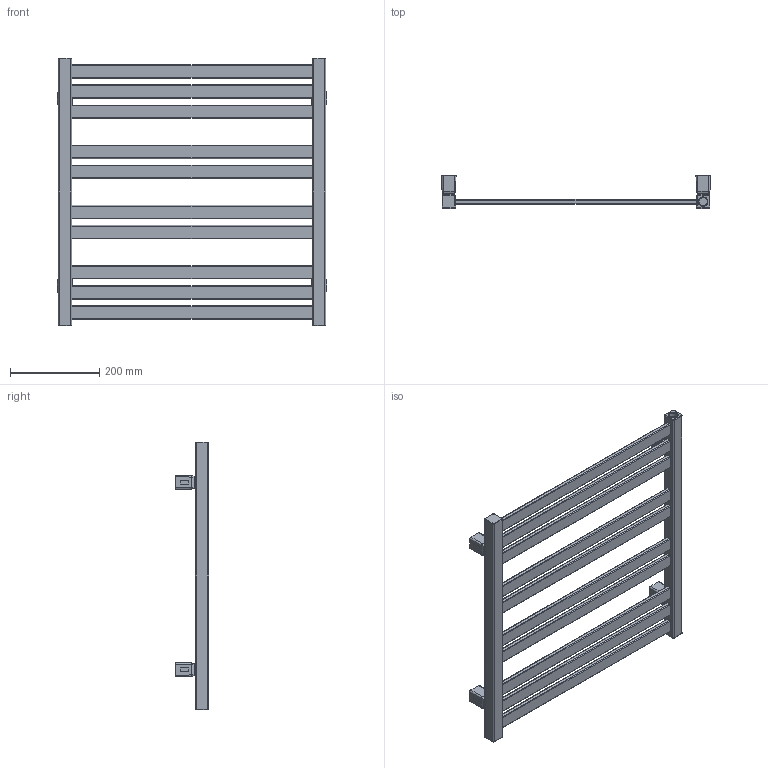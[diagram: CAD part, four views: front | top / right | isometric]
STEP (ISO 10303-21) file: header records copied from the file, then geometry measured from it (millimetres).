
FILE_DESCRIPTION((''),'2;1');
FILE_NAME('Z:\R\G\P\RGPH09 - Grzejnik Marlin\Work\Inventor\Grzejnik Marlin v3.0\Marketing\AutoCad 3D\MR-600-600-SX_MKT.stp','2012-07-25T08:09:40',('PioRo'),(''),'Autodesk Inventor 2012','Autodesk Inventor 2012','');
FILE_SCHEMA(('AUTOMOTIVE_DESIGN { 1 0 10303 214 1 1 1 1 }'));
Length unit declared in the file: millimetre
Products named in the file (3): MR-600-600-SX_MKT; MKT42-00-A v0.2
Assembly tree (5 placements, depth 2):
  MR-600-600-SX_MKT
    MR-600-600-SX_MKT
    MKT42-00-A v0.2  x4
Bounding box: 603.98 x 74.5 x 600 mm (x, y, z)
Volume: 2829624.6 mm3; surface area: 588099.5 mm2
Topology: 5 solids, 5 shells, 417 faces, 1027 edges, 649 vertices
Faces by surface type: cylinder 175, plane 167, bspline 62, torus 9, cone 4
Full cylindrical faces by diameter (mm): 4.134 x4, 10 x4, 12 x4, 18.631 x3
Entity records: 8069 total; most frequent: CARTESIAN_POINT 2623, DIRECTION 1148, ORIENTED_EDGE 1070, EDGE_CURVE 535, AXIS2_PLACEMENT_3D 430, VERTEX_POINT 351, VECTOR 288, LINE 288
